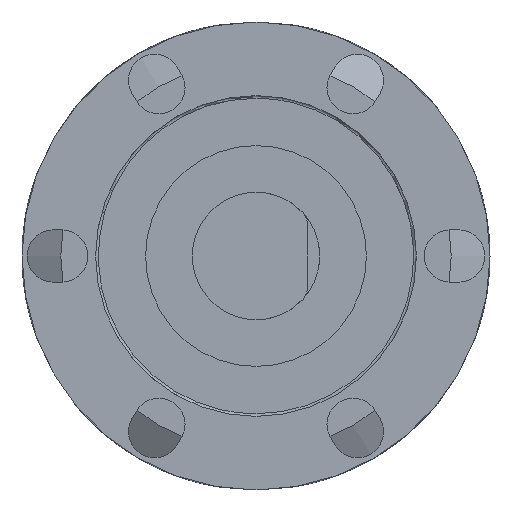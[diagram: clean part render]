
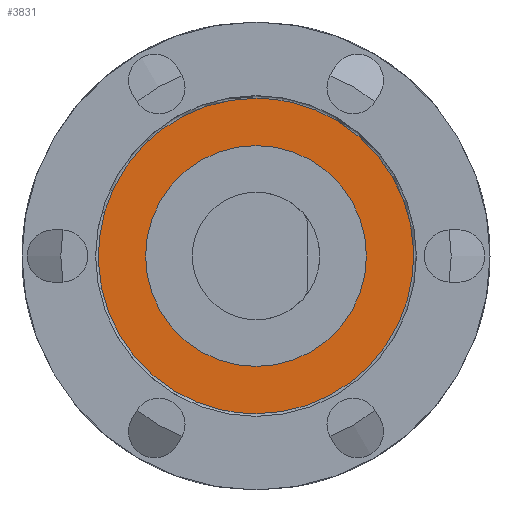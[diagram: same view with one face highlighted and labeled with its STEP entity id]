
A CAD part, left-side view. The second image highlights one B-rep face of the part: STEP entity #3831.
In plain terms, the highlighted planar face has unit normal (-1, 0, 0).
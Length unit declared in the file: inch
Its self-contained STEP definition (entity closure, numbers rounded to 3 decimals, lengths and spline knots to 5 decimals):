
#79 = CARTESIAN_POINT ( 'NONE',  ( -0.77559, 0.25255, 0.14575 ) ) ;
#99 = CARTESIAN_POINT ( 'NONE',  ( -0.77559, -0.25255, -0.14575 ) ) ;
#118 = CARTESIAN_POINT ( 'NONE',  ( -0.77559, 0.17755, -0.23131 ) ) ;
#159 = CARTESIAN_POINT ( 'NONE',  ( -0.77559, 0.27613, -0.09368 ) ) ;
#413 = CARTESIAN_POINT ( 'NONE',  ( -0.77559, -0.07552, -0.28164 ) ) ;
#646 = CARTESIAN_POINT ( 'NONE',  ( -0.77559, 0.28911, -0.03801 ) ) ;
#690 = EDGE_CURVE ( 'NONE', #2132, #7162, #5200, .T. ) ;
#754 = CARTESIAN_POINT ( 'NONE',  ( -0.77559, -0.28165, -0.07552 ) ) ;
#774 = CARTESIAN_POINT ( 'NONE',  ( -0.77559, 0.2615, -0.12901 ) ) ;
#829 = CARTESIAN_POINT ( 'NONE',  ( -0.77559, -0.25255, 0.14575 ) ) ;
#845 = B_SPLINE_CURVE_WITH_KNOTS ( 'NONE', 3,
 ( #5440, #6697, #1690, #413, #2962, #1000, #3619, #1728, #6623, #2313, #4311, #99, #6839, #4504, #754, #3297, #2889, #1629, #5325, #2741, #7187, #1525, #829, #4609, #7099, #1575, #5276, #4038, #3505, #2877, #2027, #3947, #6459, #5847 ),
 .UNSPECIFIED., .F., .F.,
 ( 4, 2, 2, 2, 2, 2, 2, 2, 2, 2, 2, 2, 2, 2, 2, 2, 4 ),
 ( 0., 0.0625, 0.125, 0.1875, 0.25, 0.3125, 0.375, 0.4375, 0.5, 0.5625, 0.625, 0.6875, 0.75, 0.8125, 0.875, 0.9375, 1. ),
 .UNSPECIFIED. ) ;
#868 = EDGE_CURVE ( 'NONE', #7162, #2132, #845, .T. ) ;
#1000 = CARTESIAN_POINT ( 'NONE',  ( -0.77559, -0.12901, -0.2615 ) ) ;
#1355 = CARTESIAN_POINT ( 'NONE',  ( -0.77559, 0.2891, 0.03801 ) ) ;
#1525 = CARTESIAN_POINT ( 'NONE',  ( -0.77559, -0.2615, 0.12901 ) ) ;
#1575 = CARTESIAN_POINT ( 'NONE',  ( -0.77559, -0.19222, 0.21926 ) ) ;
#1629 = CARTESIAN_POINT ( 'NONE',  ( -0.77559, -0.29096, 0.01912 ) ) ;
#1690 = CARTESIAN_POINT ( 'NONE',  ( -0.77559, -0.03801, -0.28911 ) ) ;
#1728 = CARTESIAN_POINT ( 'NONE',  ( -0.77559, -0.17755, -0.2313 ) ) ;
#1806 = CARTESIAN_POINT ( 'NONE',  ( -0.77559, 0.07552, 0.28164 ) ) ;
#1890 = CIRCLE ( 'NONE', #5361, 0.20374 ) ;
#2015 = CARTESIAN_POINT ( 'NONE',  ( -0.77559, 0.21926, -0.19222 ) ) ;
#2027 = CARTESIAN_POINT ( 'NONE',  ( -0.77559, -0.07551, 0.28165 ) ) ;
#2132 = VERTEX_POINT ( 'NONE', #8020 ) ;
#2259 = EDGE_LOOP ( 'NONE', ( #4811 ) ) ;
#2313 = CARTESIAN_POINT ( 'NONE',  ( -0.77559, -0.21926, -0.19222 ) ) ;
#2388 = ORIENTED_EDGE ( 'NONE', *, *, #690, .T. ) ;
#2450 = DIRECTION ( 'NONE',  ( 0., 0., -1. ) ) ;
#2481 = CARTESIAN_POINT ( 'NONE',  ( -0.77559, 0., 0.29096 ) ) ;
#2487 = CARTESIAN_POINT ( 'NONE',  ( -0.77559, 0., 0. ) ) ;
#2600 = CARTESIAN_POINT ( 'NONE',  ( -0.77559, 0.2615, 0.12901 ) ) ;
#2647 = CARTESIAN_POINT ( 'NONE',  ( -0.77559, 0.14575, -0.25255 ) ) ;
#2718 = FACE_BOUND ( 'NONE', #2259, .T. ) ;
#2741 = CARTESIAN_POINT ( 'NONE',  ( -0.77559, -0.28164, 0.07552 ) ) ;
#2783 = AXIS2_PLACEMENT_3D ( 'NONE', #2897, #6681, #6171 ) ;
#2877 = CARTESIAN_POINT ( 'NONE',  ( -0.77559, -0.09368, 0.27613 ) ) ;
#2889 = CARTESIAN_POINT ( 'NONE',  ( -0.77559, -0.29097, -0.01912 ) ) ;
#2897 = CARTESIAN_POINT ( 'NONE',  ( -0.77559, 0.20374, 0. ) ) ;
#2962 = CARTESIAN_POINT ( 'NONE',  ( -0.77559, -0.09368, -0.27613 ) ) ;
#3009 = CARTESIAN_POINT ( 'NONE',  ( -0.77559, 0., -0.20374 ) ) ;
#3169 = EDGE_LOOP ( 'NONE', ( #6333, #2388 ) ) ;
#3198 = CARTESIAN_POINT ( 'NONE',  ( -0.77559, 0.19222, -0.21926 ) ) ;
#3209 = CARTESIAN_POINT ( 'NONE',  ( -0.77559, 0., -0.29096 ) ) ;
#3235 = CARTESIAN_POINT ( 'NONE',  ( -0.77559, 0.2313, -0.17755 ) ) ;
#3297 = CARTESIAN_POINT ( 'NONE',  ( -0.77559, -0.2891, -0.03801 ) ) ;
#3505 = CARTESIAN_POINT ( 'NONE',  ( -0.77559, -0.12901, 0.2615 ) ) ;
#3619 = CARTESIAN_POINT ( 'NONE',  ( -0.77559, -0.14575, -0.25255 ) ) ;
#3831 = ADVANCED_FACE ( 'NONE', ( #6518, #2718 ), #4089, .F. ) ;
#3894 = CARTESIAN_POINT ( 'NONE',  ( -0.77559, 0.29097, 0.01912 ) ) ;
#3947 = CARTESIAN_POINT ( 'NONE',  ( -0.77559, -0.03802, 0.2891 ) ) ;
#4038 = CARTESIAN_POINT ( 'NONE',  ( -0.77559, -0.14575, 0.25255 ) ) ;
#4089 = PLANE ( 'NONE',  #2783 ) ;
#4238 = CARTESIAN_POINT ( 'NONE',  ( -0.77559, 0.14575, 0.25255 ) ) ;
#4311 = CARTESIAN_POINT ( 'NONE',  ( -0.77559, -0.23131, -0.17755 ) ) ;
#4354 = CARTESIAN_POINT ( 'NONE',  ( -0.77559, 0.12901, 0.2615 ) ) ;
#4396 = CARTESIAN_POINT ( 'NONE',  ( -0.77559, 0.21926, 0.19222 ) ) ;
#4475 = CARTESIAN_POINT ( 'NONE',  ( -0.77559, 0.03802, -0.2891 ) ) ;
#4504 = CARTESIAN_POINT ( 'NONE',  ( -0.77559, -0.27613, -0.09368 ) ) ;
#4609 = CARTESIAN_POINT ( 'NONE',  ( -0.77559, -0.2313, 0.17755 ) ) ;
#4811 = ORIENTED_EDGE ( 'NONE', *, *, #5257, .F. ) ;
#5137 = CARTESIAN_POINT ( 'NONE',  ( -0.77559, 0.12901, -0.2615 ) ) ;
#5200 = B_SPLINE_CURVE_WITH_KNOTS ( 'NONE', 3,
 ( #2481, #5515, #7459, #1806, #8005, #4354, #4238, #6742, #6242, #4396, #6880, #79, #2600, #6368, #6322, #1355, #3894, #7672, #646, #6964, #159, #774, #7627, #3235, #2015, #3198, #118, #2647, #5137, #5714, #6917, #4475, #5219, #8158 ),
 .UNSPECIFIED., .F., .F.,
 ( 4, 2, 2, 2, 2, 2, 2, 2, 2, 2, 2, 2, 2, 2, 2, 2, 4 ),
 ( 0., 0.0625, 0.125, 0.1875, 0.25, 0.3125, 0.375, 0.4375, 0.5, 0.5625, 0.625, 0.6875, 0.75, 0.8125, 0.875, 0.9375, 1. ),
 .UNSPECIFIED. ) ;
#5219 = CARTESIAN_POINT ( 'NONE',  ( -0.77559, 0.0191, -0.29096 ) ) ;
#5257 = EDGE_CURVE ( 'NONE', #6081, #6081, #1890, .T. ) ;
#5276 = CARTESIAN_POINT ( 'NONE',  ( -0.77559, -0.17755, 0.23131 ) ) ;
#5325 = CARTESIAN_POINT ( 'NONE',  ( -0.77559, -0.28911, 0.03801 ) ) ;
#5361 = AXIS2_PLACEMENT_3D ( 'NONE', #2487, #6813, #2450 ) ;
#5440 = CARTESIAN_POINT ( 'NONE',  ( -0.77559, 0., -0.29096 ) ) ;
#5515 = CARTESIAN_POINT ( 'NONE',  ( -0.77559, 0.01911, 0.29096 ) ) ;
#5714 = CARTESIAN_POINT ( 'NONE',  ( -0.77559, 0.09368, -0.27613 ) ) ;
#5847 = CARTESIAN_POINT ( 'NONE',  ( -0.77559, 0., 0.29096 ) ) ;
#6081 = VERTEX_POINT ( 'NONE', #3009 ) ;
#6171 = DIRECTION ( 'NONE',  ( 0., 0., -1. ) ) ;
#6242 = CARTESIAN_POINT ( 'NONE',  ( -0.77559, 0.19222, 0.21926 ) ) ;
#6322 = CARTESIAN_POINT ( 'NONE',  ( -0.77559, 0.28165, 0.07552 ) ) ;
#6333 = ORIENTED_EDGE ( 'NONE', *, *, #868, .T. ) ;
#6368 = CARTESIAN_POINT ( 'NONE',  ( -0.77559, 0.27613, 0.09368 ) ) ;
#6459 = CARTESIAN_POINT ( 'NONE',  ( -0.77559, -0.0191, 0.29096 ) ) ;
#6518 = FACE_OUTER_BOUND ( 'NONE', #3169, .T. ) ;
#6623 = CARTESIAN_POINT ( 'NONE',  ( -0.77559, -0.19222, -0.21926 ) ) ;
#6681 = DIRECTION ( 'NONE',  ( 1., 0., 0. ) ) ;
#6697 = CARTESIAN_POINT ( 'NONE',  ( -0.77559, -0.01911, -0.29096 ) ) ;
#6742 = CARTESIAN_POINT ( 'NONE',  ( -0.77559, 0.17755, 0.2313 ) ) ;
#6813 = DIRECTION ( 'NONE',  ( -1., 0., 0. ) ) ;
#6839 = CARTESIAN_POINT ( 'NONE',  ( -0.77559, -0.2615, -0.12901 ) ) ;
#6880 = CARTESIAN_POINT ( 'NONE',  ( -0.77559, 0.23131, 0.17755 ) ) ;
#6917 = CARTESIAN_POINT ( 'NONE',  ( -0.77559, 0.07551, -0.28165 ) ) ;
#6964 = CARTESIAN_POINT ( 'NONE',  ( -0.77559, 0.28164, -0.07552 ) ) ;
#7099 = CARTESIAN_POINT ( 'NONE',  ( -0.77559, -0.21926, 0.19222 ) ) ;
#7162 = VERTEX_POINT ( 'NONE', #3209 ) ;
#7187 = CARTESIAN_POINT ( 'NONE',  ( -0.77559, -0.27613, 0.09368 ) ) ;
#7459 = CARTESIAN_POINT ( 'NONE',  ( -0.77559, 0.03801, 0.28911 ) ) ;
#7627 = CARTESIAN_POINT ( 'NONE',  ( -0.77559, 0.25255, -0.14575 ) ) ;
#7672 = CARTESIAN_POINT ( 'NONE',  ( -0.77559, 0.29096, -0.01912 ) ) ;
#8005 = CARTESIAN_POINT ( 'NONE',  ( -0.77559, 0.09368, 0.27613 ) ) ;
#8020 = CARTESIAN_POINT ( 'NONE',  ( -0.77559, 0., 0.29096 ) ) ;
#8158 = CARTESIAN_POINT ( 'NONE',  ( -0.77559, 0., -0.29096 ) ) ;
